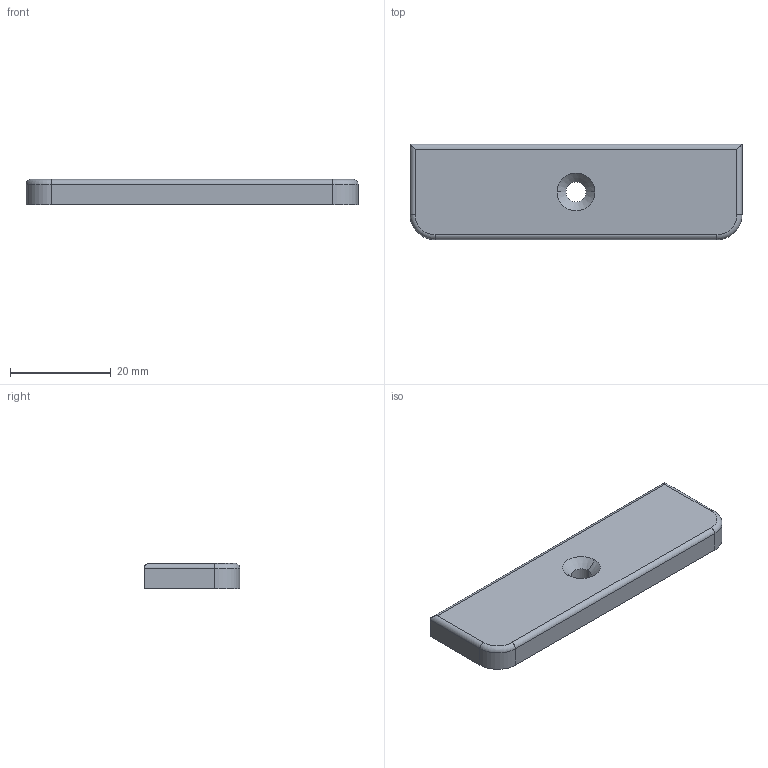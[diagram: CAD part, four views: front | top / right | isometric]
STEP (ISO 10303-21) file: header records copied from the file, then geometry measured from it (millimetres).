
FILE_DESCRIPTION (( 'STEP AP214' ), '1' );
FILE_NAME ('L19170-bouchon.step', '2024-12-03T16:23:16', ( '' ), ( '' ), 'SwSTEP 2.0', 'SolidWorks 2023', '' );
FILE_SCHEMA (( 'AUTOMOTIVE_DESIGN' ));
Length unit declared in the file: millimetre
Products named in the file (1): L19170-bouchon
Bounding box: 66 x 19 x 5 mm (x, y, z)
Volume: 5894.3 mm3; surface area: 3394.8 mm2
Topology: 1 solids, 1 shells, 24 faces, 52 edges, 32 vertices
Faces by surface type: cylinder 12, plane 8, cone 2, torus 2
Entity records: 683 total; most frequent: DIRECTION 124, CARTESIAN_POINT 115, ORIENTED_EDGE 104, EDGE_CURVE 52, AXIS2_PLACEMENT_3D 49, VERTEX_POINT 32, EDGE_LOOP 28, LINE 26
